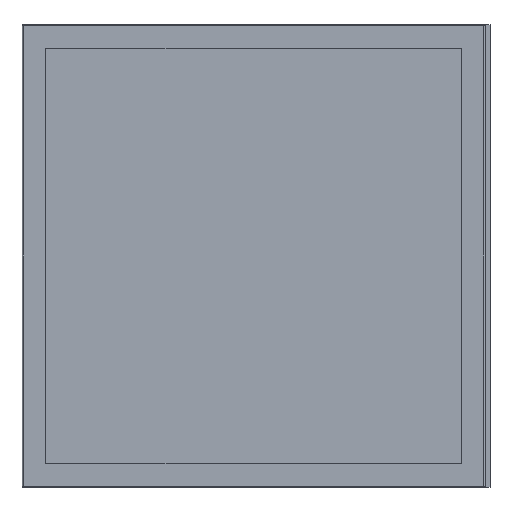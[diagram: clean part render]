
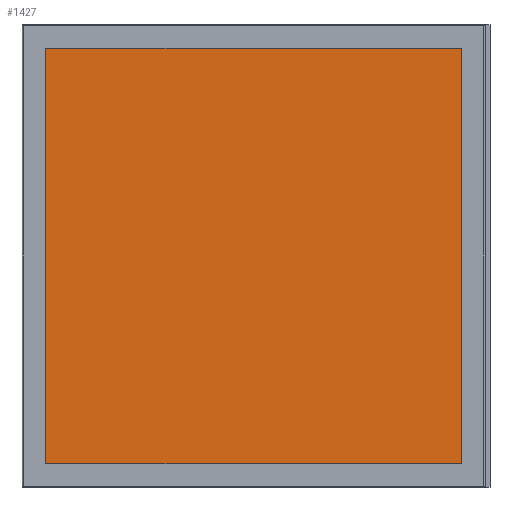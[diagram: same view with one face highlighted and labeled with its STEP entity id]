
A CAD part, front view. The second image highlights one B-rep face of the part: STEP entity #1427.
In plain terms, the highlighted planar face has unit normal (0, -1, 0).
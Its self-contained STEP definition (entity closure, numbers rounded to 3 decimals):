
#1427=ADVANCED_FACE('',(#5659),#5661,.F.);
#5659=FACE_BOUND('',#5660,.T.);
#5660=EDGE_LOOP('',(#7290,#7291,#7292,#7293));
#5661=PLANE('',#5662);
#5662=AXIS2_PLACEMENT_3D('',#5663,#5664,#5665);
#5663=CARTESIAN_POINT('',(0.,0.,0.));
#5664=DIRECTION('',(-0.,1.,0.));
#5665=DIRECTION('',(1.,0.,0.));
#7290=ORIENTED_EDGE('',*,*,#8106,.F.);
#7291=ORIENTED_EDGE('',*,*,#8103,.F.);
#7292=ORIENTED_EDGE('',*,*,#8100,.F.);
#7293=ORIENTED_EDGE('',*,*,#8096,.F.);
#8096=EDGE_CURVE('',#9436,#9437,#9438,.T.);
#8100=EDGE_CURVE('',#9437,#9444,#9445,.T.);
#8103=EDGE_CURVE('',#9444,#9449,#9450,.T.);
#8106=EDGE_CURVE('',#9449,#9436,#9454,.T.);
#9436=VERTEX_POINT('',#12916);
#9437=VERTEX_POINT('',#12917);
#9438=LINE('',#12918,#12919);
#9444=VERTEX_POINT('',#12932);
#9445=LINE('',#12933,#12934);
#9449=VERTEX_POINT('',#12943);
#9450=LINE('',#12944,#12945);
#9454=LINE('',#12954,#12955);
#12916=CARTESIAN_POINT('',(-283.,0.,283.));
#12917=CARTESIAN_POINT('',(283.,0.,283.));
#12918=CARTESIAN_POINT('',(-283.,0.,283.));
#12919=VECTOR('',#12920,1.);
#12920=DIRECTION('',(1.,0.,0.));
#12932=CARTESIAN_POINT('',(283.,0.,-283.));
#12933=CARTESIAN_POINT('',(283.,0.,283.));
#12934=VECTOR('',#12935,1.);
#12935=DIRECTION('',(0.,0.,-1.));
#12943=CARTESIAN_POINT('',(-283.,0.,-283.));
#12944=CARTESIAN_POINT('',(283.,0.,-283.));
#12945=VECTOR('',#12946,1.);
#12946=DIRECTION('',(-1.,0.,0.));
#12954=CARTESIAN_POINT('',(-283.,0.,-283.));
#12955=VECTOR('',#12956,1.);
#12956=DIRECTION('',(0.,0.,1.));
